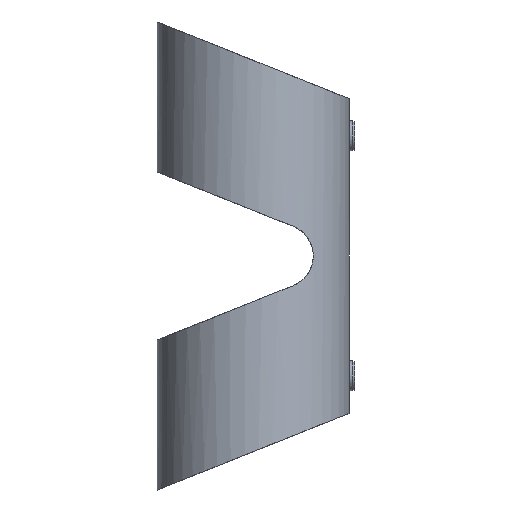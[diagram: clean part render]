
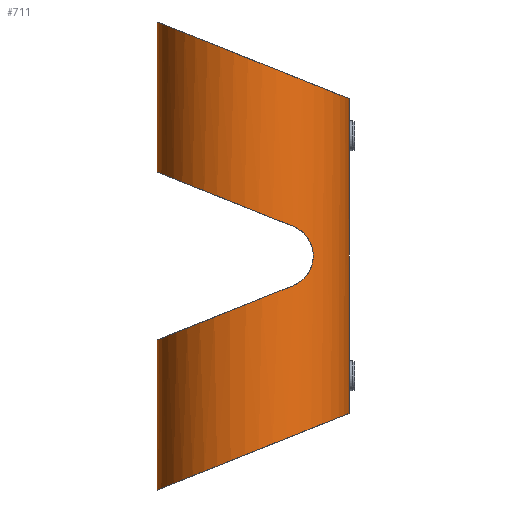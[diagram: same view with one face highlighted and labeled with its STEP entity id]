
A CAD part, left-side view. The second image highlights one B-rep face of the part: STEP entity #711.
In plain terms, the highlighted cylindrical face has radius 160 mm (diameter 320 mm), a partial arc.
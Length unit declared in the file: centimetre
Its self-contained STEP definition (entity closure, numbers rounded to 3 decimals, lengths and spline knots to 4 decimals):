
#13=B_SPLINE_CURVE_WITH_KNOTS('',3,(#1125,#1126,#1127,#1128,#1129,#1130,
#1131,#1132,#1133,#1134,#1135,#1136,#1137,#1138,#1139,#1140,#1141,#1142,
#1143,#1144,#1145,#1146,#1147,#1148,#1149,#1150,#1151,#1152,#1153,#1154,
#1155,#1156,#1157,#1158,#1159,#1160,#1161,#1162,#1163,#1164,#1165,#1166,
#1167,#1168,#1169,#1170,#1171,#1172,#1173,#1174,#1175,#1176),
 .UNSPECIFIED.,.F.,.F.,(4,3,3,3,3,3,3,3,3,3,3,3,3,3,3,3,3,4),(-6.4538,
-5.3243,-4.5885,-4.2383,-4.0433,
-2.9848,-1.9837,-1.0335,-0.433,
-0.0771,0.2036,1.103,2.0186,3.0198,
3.877,4.1005,5.2746,6.4488),
 .UNSPECIFIED.);
#20=ELLIPSE('',#775,17.2324,16.);
#22=ELLIPSE('',#779,17.2324,16.);
#27=ELLIPSE('',#791,17.2324,16.);
#31=ELLIPSE('',#797,17.2324,16.);
#40=LINE('',#1105,#80);
#51=LINE('',#1355,#91);
#52=LINE('',#1358,#92);
#80=VECTOR('',#910,52.4018);
#91=VECTOR('',#947,25.);
#92=VECTOR('',#950,25.);
#200=FACE_OUTER_BOUND('',#264,.T.);
#264=EDGE_LOOP('',(#567,#568,#569,#570,#571,#572,#573,#574));
#331=VERTEX_POINT('',#1098);
#334=VERTEX_POINT('',#1103);
#341=VERTEX_POINT('',#1118);
#342=VERTEX_POINT('',#1120);
#343=VERTEX_POINT('',#1124);
#347=VERTEX_POINT('',#1235);
#352=VERTEX_POINT('',#1353);
#353=VERTEX_POINT('',#1357);
#398=EDGE_CURVE('',#334,#331,#40,.T.);
#405=EDGE_CURVE('',#342,#341,#20,.T.);
#407=EDGE_CURVE('',#341,#343,#13,.T.);
#412=EDGE_CURVE('',#343,#347,#22,.T.);
#421=EDGE_CURVE('',#352,#347,#51,.T.);
#422=EDGE_CURVE('',#342,#353,#52,.T.);
#436=EDGE_CURVE('',#352,#331,#27,.T.);
#442=EDGE_CURVE('',#334,#353,#31,.T.);
#567=ORIENTED_EDGE('',*,*,#412,.T.);
#568=ORIENTED_EDGE('',*,*,#421,.F.);
#569=ORIENTED_EDGE('',*,*,#436,.T.);
#570=ORIENTED_EDGE('',*,*,#398,.F.);
#571=ORIENTED_EDGE('',*,*,#442,.T.);
#572=ORIENTED_EDGE('',*,*,#422,.F.);
#573=ORIENTED_EDGE('',*,*,#405,.T.);
#574=ORIENTED_EDGE('',*,*,#407,.T.);
#631=CYLINDRICAL_SURFACE('',#796,16.);
#711=ADVANCED_FACE('',(#200),#631,.T.);
#775=AXIS2_PLACEMENT_3D('',#1121,#922,#923);
#779=AXIS2_PLACEMENT_3D('',#1237,#933,#934);
#791=AXIS2_PLACEMENT_3D('',#1384,#974,#975);
#796=AXIS2_PLACEMENT_3D('',#1393,#986,#987);
#797=AXIS2_PLACEMENT_3D('',#1394,#988,#989);
#910=DIRECTION('',(0.,0.,-1.));
#922=DIRECTION('center_axis',(0.,-0.371,0.928));
#923=DIRECTION('ref_axis',(0.,-0.928,-0.371));
#933=DIRECTION('center_axis',(0.,-0.371,-0.928));
#934=DIRECTION('ref_axis',(0.,-0.928,0.371));
#947=DIRECTION('',(0.,0.,1.));
#950=DIRECTION('',(0.,0.,1.));
#974=DIRECTION('center_axis',(0.,0.371,0.928));
#975=DIRECTION('ref_axis',(0.,-0.928,0.371));
#986=DIRECTION('center_axis',(0.,0.,-1.));
#987=DIRECTION('ref_axis',(0.,-1.,0.));
#988=DIRECTION('center_axis',(0.,0.371,
-0.928));
#989=DIRECTION('ref_axis',(0.,-0.928,-0.371));
#1098=CARTESIAN_POINT('',(-24.,0.,-26.2009));
#1103=CARTESIAN_POINT('',(-24.,0.,26.2009));
#1105=CARTESIAN_POINT('',(-24.,0.,39.));
#1118=CARTESIAN_POINT('',(-38.5495,9.3432,4.9379));
#1120=CARTESIAN_POINT('',(-24.,32.,14.));
#1121=CARTESIAN_POINT('Origin',(-24.,16.,7.6005));
#1124=CARTESIAN_POINT('',(-38.5495,9.3432,-4.9379));
#1125=CARTESIAN_POINT('Ctrl Pts',(-38.5495,9.3432,4.9379));
#1126=CARTESIAN_POINT('Ctrl Pts',(-38.3926,9.0004,4.8008));
#1127=CARTESIAN_POINT('Ctrl Pts',(-38.2283,8.6738,4.6284));
#1128=CARTESIAN_POINT('Ctrl Pts',(-38.0651,8.3728,4.4281));
#1129=CARTESIAN_POINT('Ctrl Pts',(-37.9587,8.1767,4.2977));
#1130=CARTESIAN_POINT('Ctrl Pts',(-37.8529,7.9915,4.1556));
#1131=CARTESIAN_POINT('Ctrl Pts',(-37.7503,7.8189,4.0048));
#1132=CARTESIAN_POINT('Ctrl Pts',(-37.7014,7.7368,3.933));
#1133=CARTESIAN_POINT('Ctrl Pts',(-37.6533,7.6575,3.8593));
#1134=CARTESIAN_POINT('Ctrl Pts',(-37.6061,7.5813,3.7841));
#1135=CARTESIAN_POINT('Ctrl Pts',(-37.5798,7.5389,3.7422));
#1136=CARTESIAN_POINT('Ctrl Pts',(-37.5538,7.4972,3.6996));
#1137=CARTESIAN_POINT('Ctrl Pts',(-37.5276,7.4557,3.6558));
#1138=CARTESIAN_POINT('Ctrl Pts',(-37.3855,7.2308,3.4182));
#1139=CARTESIAN_POINT('Ctrl Pts',(-37.2437,7.0191,3.1499));
#1140=CARTESIAN_POINT('Ctrl Pts',(-37.1133,6.8326,2.857));
#1141=CARTESIAN_POINT('Ctrl Pts',(-36.9899,6.6561,2.5799));
#1142=CARTESIAN_POINT('Ctrl Pts',(-36.8769,6.5021,2.2809));
#1143=CARTESIAN_POINT('Ctrl Pts',(-36.7828,6.3771,1.9669));
#1144=CARTESIAN_POINT('Ctrl Pts',(-36.6935,6.2585,1.6689));
#1145=CARTESIAN_POINT('Ctrl Pts',(-36.6213,6.1659,1.3572));
#1146=CARTESIAN_POINT('Ctrl Pts',(-36.5716,6.1027,1.0402));
#1147=CARTESIAN_POINT('Ctrl Pts',(-36.5401,6.0628,0.8399));
#1148=CARTESIAN_POINT('Ctrl Pts',(-36.5175,6.0345,0.6375));
#1149=CARTESIAN_POINT('Ctrl Pts',(-36.5043,6.0179,0.4355));
#1150=CARTESIAN_POINT('Ctrl Pts',(-36.4964,6.008,0.3158));
#1151=CARTESIAN_POINT('Ctrl Pts',(-36.4918,6.0023,0.1961));
#1152=CARTESIAN_POINT('Ctrl Pts',(-36.4904,6.0006,0.0772));
#1153=CARTESIAN_POINT('Ctrl Pts',(-36.4894,5.9992,-0.0166));
#1154=CARTESIAN_POINT('Ctrl Pts',(-36.4902,6.0003,-0.1101));
#1155=CARTESIAN_POINT('Ctrl Pts',(-36.4931,6.0039,-0.2043));
#1156=CARTESIAN_POINT('Ctrl Pts',(-36.5024,6.0155,-0.5062));
#1157=CARTESIAN_POINT('Ctrl Pts',(-36.5328,6.0533,-0.8116));
#1158=CARTESIAN_POINT('Ctrl Pts',(-36.5832,6.1175,-1.1116));
#1159=CARTESIAN_POINT('Ctrl Pts',(-36.6344,6.1828,-1.4171));
#1160=CARTESIAN_POINT('Ctrl Pts',(-36.7064,6.2754,-1.7172));
#1161=CARTESIAN_POINT('Ctrl Pts',(-36.794,6.392,-2.004));
#1162=CARTESIAN_POINT('Ctrl Pts',(-36.8898,6.5195,-2.3175));
#1163=CARTESIAN_POINT('Ctrl Pts',(-37.0043,6.6761,-2.6157));
#1164=CARTESIAN_POINT('Ctrl Pts',(-37.1285,6.8543,-2.8909));
#1165=CARTESIAN_POINT('Ctrl Pts',(-37.2348,7.0069,-3.1265));
#1166=CARTESIAN_POINT('Ctrl Pts',(-37.348,7.1754,-3.3453));
#1167=CARTESIAN_POINT('Ctrl Pts',(-37.4621,7.3529,-3.544));
#1168=CARTESIAN_POINT('Ctrl Pts',(-37.4918,7.3992,-3.5958));
#1169=CARTESIAN_POINT('Ctrl Pts',(-37.5216,7.446,-3.6462));
#1170=CARTESIAN_POINT('Ctrl Pts',(-37.5514,7.4935,-3.6953));
#1171=CARTESIAN_POINT('Ctrl Pts',(-37.708,7.7431,-3.9536));
#1172=CARTESIAN_POINT('Ctrl Pts',(-37.8764,8.0269,-4.1943));
#1173=CARTESIAN_POINT('Ctrl Pts',(-38.0461,8.338,-4.4048));
#1174=CARTESIAN_POINT('Ctrl Pts',(-38.2159,8.6491,-4.6153));
#1175=CARTESIAN_POINT('Ctrl Pts',(-38.3867,8.9875,-4.7957));
#1176=CARTESIAN_POINT('Ctrl Pts',(-38.5495,9.3432,-4.9379));
#1235=CARTESIAN_POINT('',(-24.,32.,-14.));
#1237=CARTESIAN_POINT('Origin',(-24.,16.,-7.6005));
#1353=CARTESIAN_POINT('',(-24.,32.,-39.));
#1355=CARTESIAN_POINT('',(-24.,32.,0.));
#1357=CARTESIAN_POINT('',(-24.,32.,39.));
#1358=CARTESIAN_POINT('',(-24.,32.,0.));
#1384=CARTESIAN_POINT('Origin',(-24.,16.,-32.6005));
#1393=CARTESIAN_POINT('Origin',(-24.,16.,39.));
#1394=CARTESIAN_POINT('Origin',(-24.,16.,32.6005));
